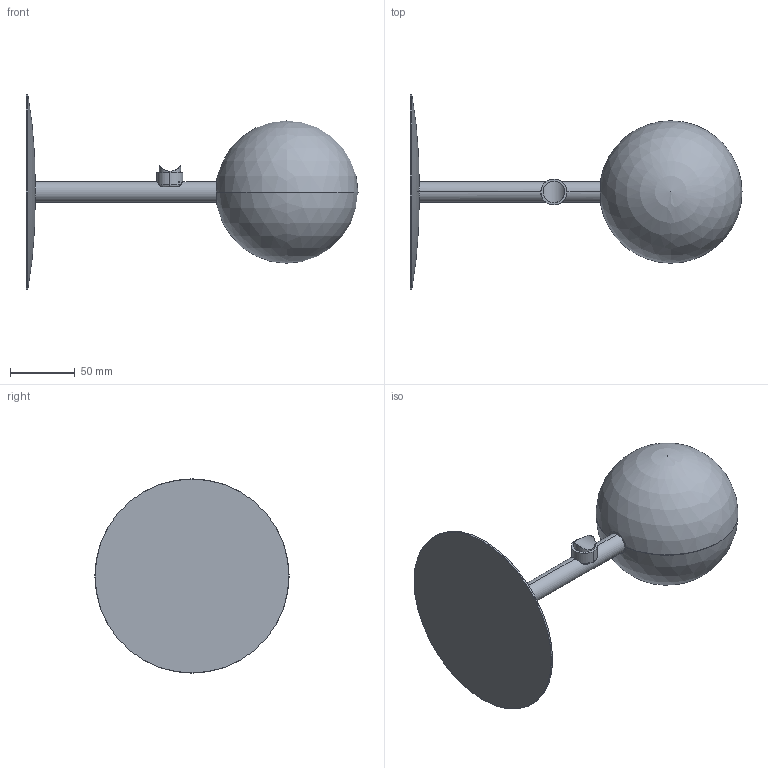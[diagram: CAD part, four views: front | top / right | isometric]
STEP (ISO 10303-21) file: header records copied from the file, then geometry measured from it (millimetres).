
FILE_DESCRIPTION (( 'STEP AP214' ), '1' );
FILE_NAME ('Eclipse 150.STEP', '2021-09-16T01:54:06', ( '' ), ( '' ), 'SwSTEP 2.0', 'SolidWorks 2017', '' );
FILE_SCHEMA (( 'AUTOMOTIVE_DESIGN' ));
Length unit declared in the file: millimetre
Products named in the file (1): Eclipse 150
Bounding box: 256.37 x 150 x 150 mm (x, y, z)
Volume: 121944.4 mm3; surface area: 126196.1 mm2
Topology: 4 solids, 4 shells, 75 faces, 188 edges, 114 vertices
Faces by surface type: cylinder 29, plane 20, torus 12, cone 10, sphere 4
Entity records: 3199 total; most frequent: CARTESIAN_POINT 752, DIRECTION 402, ORIENTED_EDGE 348, AXIS2_PLACEMENT_3D 176, EDGE_CURVE 174, VERTEX_POINT 108, CIRCLE 100, EDGE_LOOP 86
